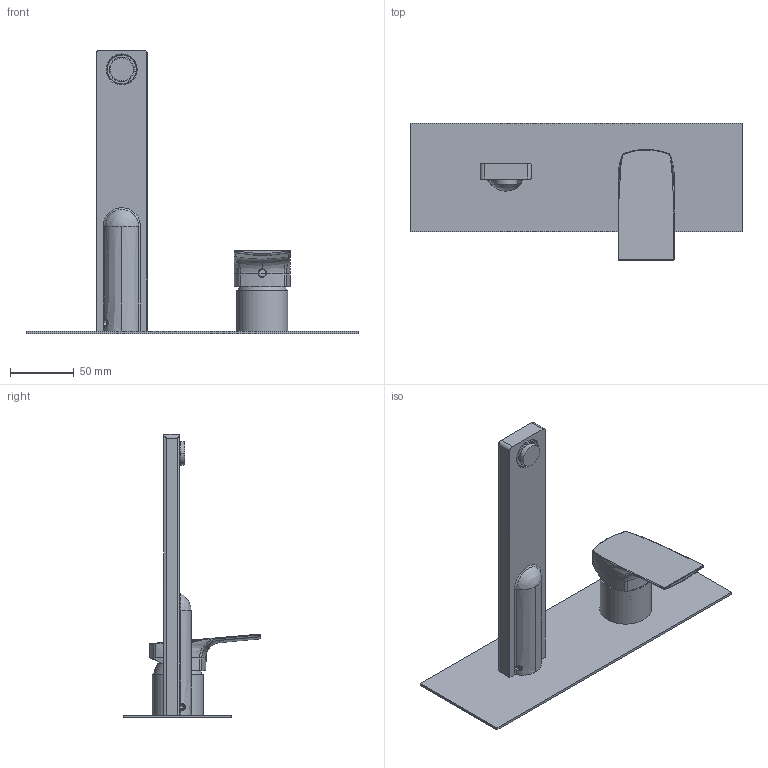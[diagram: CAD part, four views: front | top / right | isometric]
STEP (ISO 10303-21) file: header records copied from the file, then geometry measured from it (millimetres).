
FILE_DESCRIPTION((''),'2;1');
FILE_NAME('75548A_SW0001','2026-10-08T10:09:24',('carloff'),(''),'CREO PARAMETRIC BY PTC INC, 2025443','CREO PARAMETRIC BY PTC INC, 2025443','');
FILE_SCHEMA(('CONFIG_CONTROL_DESIGN'));
Products named in the file (1): 75548A_SW0001
Bounding box: 260 x 107.5 x 222 mm (x, y, z)
Volume: 200964 mm3; surface area: 122116.4 mm2
Topology: 3 solids, 3 shells, 937 faces, 2649 edges, 1718 vertices
Faces by surface type: cylinder 353, plane 310, bspline 100, torus 87, cone 71, sphere 16
Entity records: 67206 total; most frequent: CARTESIAN_POINT 43620, ORIENTED_EDGE 5280, DIRECTION 4573, EDGE_CURVE 2640, VERTEX_POINT 1718, AXIS2_PLACEMENT_3D 1716, VECTOR 1141, LINE 1141
